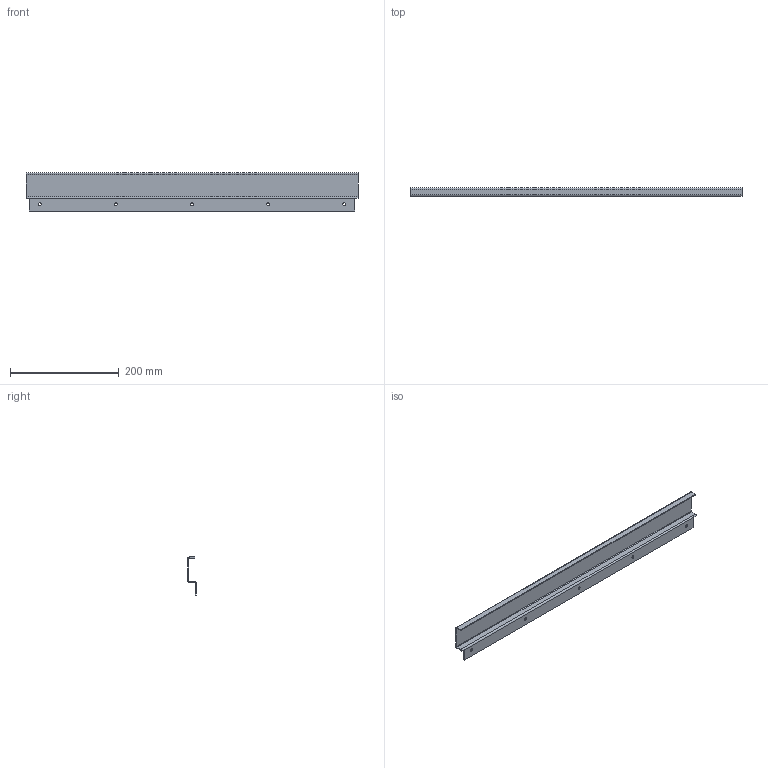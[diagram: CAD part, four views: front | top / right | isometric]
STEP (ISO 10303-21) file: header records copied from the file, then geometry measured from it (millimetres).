
FILE_DESCRIPTION((''),'1');
FILE_NAME('4','2001-04-18T',('jlue'),(''),'PRO/ENGINEER BY PARAMETRIC TECHNOLOGY CORPORATION, 9846','PRO/ENGINEER BY PARAMETRIC TECHNOLOGY CORPORATION, 9846','');
FILE_SCHEMA(('CONFIG_CONTROL_DESIGN'));
Length unit declared in the file: inch
Products named in the file (1): 4
Bounding box: 609.6 x 15.76 x 69.85 mm (x, y, z)
Surface area: 114044 mm2 (no closed solid volume)
Topology: 0 solids, 0 shells, 30 faces, 173 edges, 178 vertices
Faces by surface type: cylinder 16, plane 14
Entity records: 913 total; most frequent: DIRECTION 183, COMPOSITE_CURVE_SEGMENT 168, CARTESIAN_POINT 119, TRIMMED_CURVE 89, AXIS2_PLACEMENT_3D 64, VECTOR 55, LINE 55, CIRCLE 34
